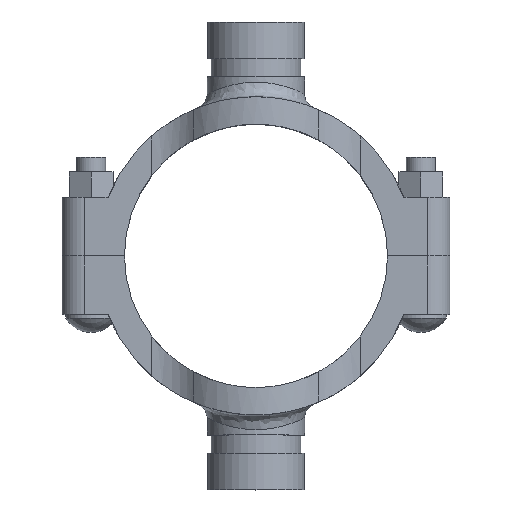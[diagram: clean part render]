
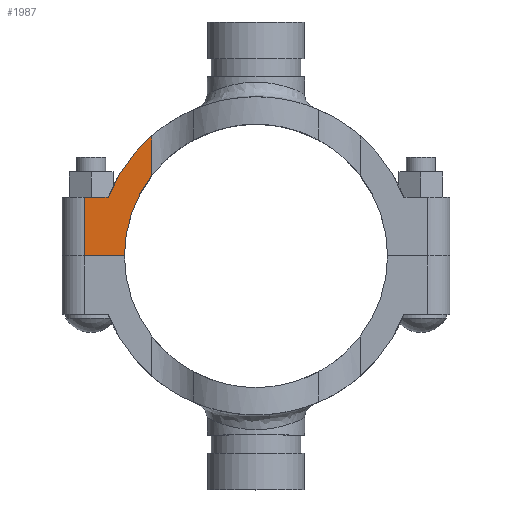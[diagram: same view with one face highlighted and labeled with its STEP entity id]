
A CAD part, top view. The second image highlights one B-rep face of the part: STEP entity #1987.
In plain terms, the highlighted planar face has unit normal (0, 0, 1) as drawn and (0, 0, -1) by its records, which use the part's own axes.
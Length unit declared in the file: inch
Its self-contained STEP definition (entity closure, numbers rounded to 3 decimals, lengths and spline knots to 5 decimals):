
#185=FACE_OUTER_BOUND('',#303,.T.);
#303=EDGE_LOOP('',(#1447,#1448,#1449,#1450,#1451,#1452));
#449=LINE('',#3577,#599);
#450=LINE('',#3579,#600);
#451=LINE('',#3581,#601);
#452=LINE('',#3582,#602);
#599=VECTOR('',#2575,0.3937);
#600=VECTOR('',#2576,0.3937);
#601=VECTOR('',#2577,0.3937);
#602=VECTOR('',#2578,0.3937);
#693=CIRCLE('',#2142,2.72);
#721=CIRCLE('',#2200,2.25);
#806=VERTEX_POINT('',#3194);
#807=VERTEX_POINT('',#3196);
#858=VERTEX_POINT('',#3492);
#859=VERTEX_POINT('',#3507);
#868=VERTEX_POINT('',#3578);
#869=VERTEX_POINT('',#3580);
#1003=EDGE_CURVE('',#807,#806,#693,.T.);
#1077=EDGE_CURVE('',#859,#858,#721,.T.);
#1089=EDGE_CURVE('',#858,#807,#449,.T.);
#1090=EDGE_CURVE('',#806,#868,#450,.T.);
#1091=EDGE_CURVE('',#869,#868,#451,.T.);
#1092=EDGE_CURVE('',#869,#859,#452,.T.);
#1447=ORIENTED_EDGE('',*,*,#1077,.T.);
#1448=ORIENTED_EDGE('',*,*,#1089,.T.);
#1449=ORIENTED_EDGE('',*,*,#1003,.T.);
#1450=ORIENTED_EDGE('',*,*,#1090,.T.);
#1451=ORIENTED_EDGE('',*,*,#1091,.F.);
#1452=ORIENTED_EDGE('',*,*,#1092,.T.);
#1802=PLANE('',#2204);
#1987=ADVANCED_FACE('',(#185),#1802,.T.);
#2142=AXIS2_PLACEMENT_3D('',#3197,#2404,#2405);
#2200=AXIS2_PLACEMENT_3D('',#3508,#2559,#2560);
#2204=AXIS2_PLACEMENT_3D('',#3576,#2573,#2574);
#2404=DIRECTION('center_axis',(0.,0.,-1.));
#2405=DIRECTION('ref_axis',(0.93,0.368,0.));
#2559=DIRECTION('center_axis',(0.,0.,1.));
#2560=DIRECTION('ref_axis',(-1.,0.,0.));
#2573=DIRECTION('center_axis',(0.,0.,-1.));
#2574=DIRECTION('ref_axis',(-1.,0.,0.));
#2575=DIRECTION('',(0.,1.,0.));
#2576=DIRECTION('',(1.,0.,0.));
#2577=DIRECTION('',(0.,1.,0.));
#2578=DIRECTION('',(-1.,0.,0.));
#3194=CARTESIAN_POINT('',(2.52951,1.,-0.75));
#3196=CARTESIAN_POINT('',(1.78536,2.05205,-0.75));
#3197=CARTESIAN_POINT('Origin',(0.,0.,-0.75));
#3492=CARTESIAN_POINT('',(1.78536,1.36931,-0.75));
#3507=CARTESIAN_POINT('',(2.25,0.,-0.75));
#3508=CARTESIAN_POINT('Origin',(0.,0.,-0.75));
#3576=CARTESIAN_POINT('Origin',(2.935,0.,-0.75));
#3577=CARTESIAN_POINT('',(1.78536,0.,-0.75));
#3578=CARTESIAN_POINT('',(2.935,1.,-0.75));
#3579=CARTESIAN_POINT('',(2.73225,1.,-0.75));
#3580=CARTESIAN_POINT('',(2.935,0.,-0.75));
#3581=CARTESIAN_POINT('',(2.935,0.,-0.75));
#3582=CARTESIAN_POINT('',(2.935,0.,-0.75));
